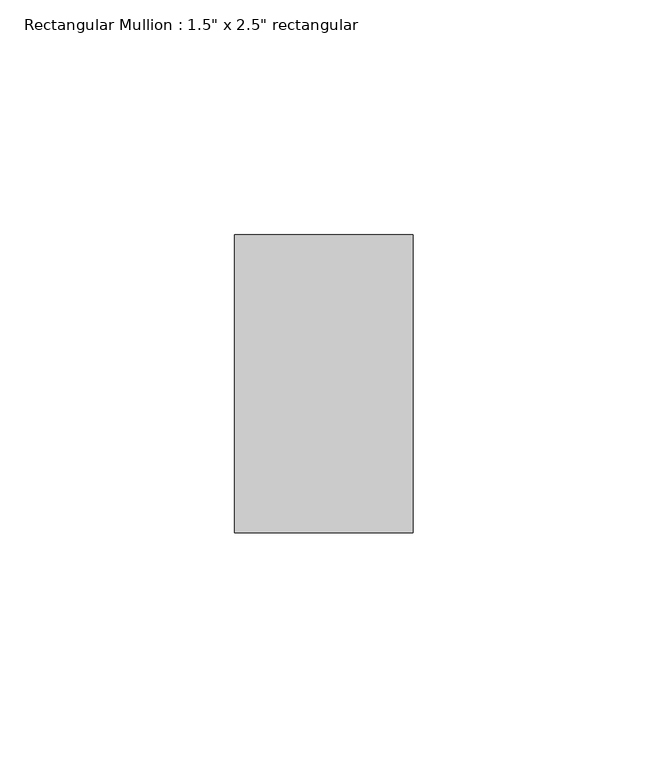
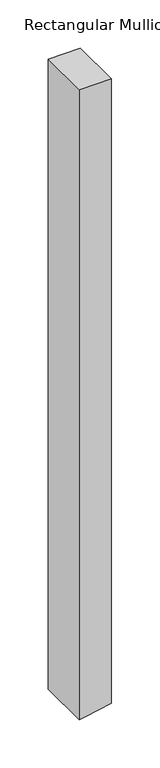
"""IFC4 building model written with IfcOpenShell, lengths in millimetres: member geometry."""

from ifc_helpers import new_model, si_unit, frame, origin, place, context, project, spatial, polyline, outline, extrude, source, transform, mapped, element, save


def member_0bdf605d(model_context):
    return source(origin(), model_context, "Body", "SweptSolid", [
        extrude(outline(polyline([(0.0, 19.05), (0.0, -19.05), (-794.098303, -19.05), (-792.8233318, -11.7280895), (-786.6135896, 19.05), (0.0, 19.05)])), frame((0.0, -31.75, 0.0), z_axis=(0.0, 1.0, 0.0), x_axis=(0.0, 0.0, 1.0)), (0.0, 0.0, 1.0), 63.5),
    ])


if __name__ == "__main__":
    model = new_model("IFC4")
    model_context = context("Model", 3, world=origin())
    ifc_project = project(units=[si_unit("LENGTHUNIT", "METRE", prefix="MILLI")], contexts=[model_context])
    site = spatial("IfcSite", under=ifc_project)
    building = spatial("IfcBuilding", under=site)
    placement = place(None, origin())
    member_shape = member_0bdf605d(model_context)
    element("IfcMember", 1, ObjectType="Rectangular Mullion : 1.5\" x 2.5\" rectangular", at=placement, inside=building, context=model_context, shape_type="MappedRepresentation", body=[
        mapped(member_shape, transform((0.0, 0.0, 0.0), x_axis=(1.0, 0.0, 0.0), y_axis=(0.0, 1.0, 0.0), z_axis=(0.0, 0.0, 1.0))),
    ])
    save(model, "model.ifc")
